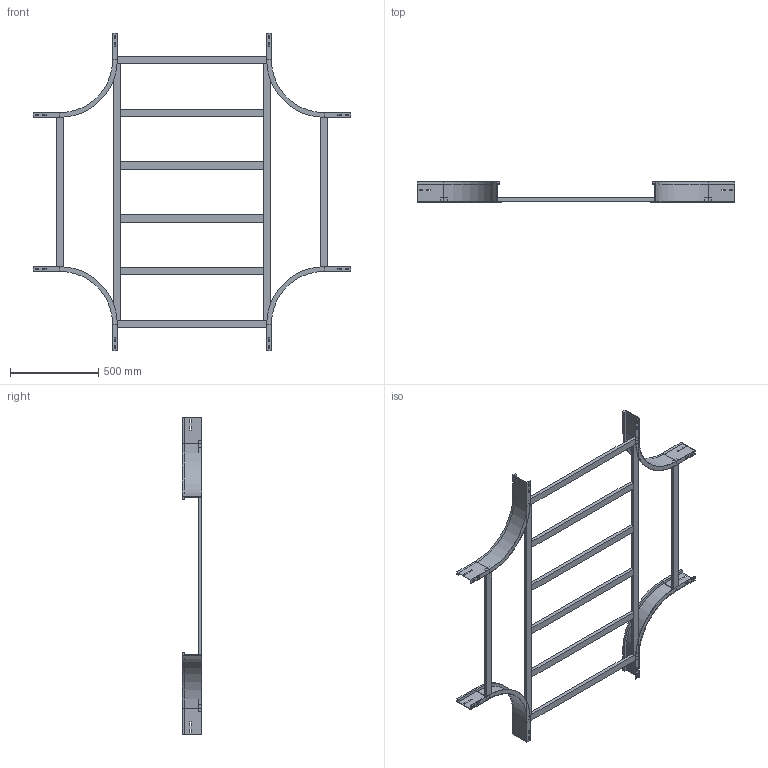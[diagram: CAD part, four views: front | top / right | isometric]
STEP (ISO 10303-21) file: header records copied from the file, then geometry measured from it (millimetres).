
FILE_DESCRIPTION (( 'STEP AP214' ), '1' );
FILE_NAME ('A2_17B3J900.step', '2025-02-21T15:57:02', ( '' ), ( '' ), 'SwSTEP 2.0', 'SolidWorks 2023', '' );
FILE_SCHEMA (( 'AUTOMOTIVE_DESIGN' ));
Length unit declared in the file: millimetre
Products named in the file (5): A2_LONGH.INTERNO 90°_H112.5_R300; TRAVERSINO_900; A2_TRAVERSINO_LONG._R300+900; TRAVERSINO_INTERMEDIO_R300+900; A2_17B3J900
Assembly tree (14 placements, depth 2):
  A2_17B3J900
    A2_LONGH.INTERNO 90°_H112.5_R300  x4
    TRAVERSINO_900  x4
    A2_TRAVERSINO_LONG._R300+900  x2
    TRAVERSINO_INTERMEDIO_R300+900  x4
Bounding box: 1800 x 112.5 x 1800 mm (x, y, z)
Volume: 9356881 mm3; surface area: 2164061.5 mm2
Topology: 14 solids, 14 shells, 292 faces, 728 edges, 464 vertices
Faces by surface type: plane 276, cylinder 16
Entity records: 2458 total; most frequent: CARTESIAN_POINT 401, DIRECTION 382, ORIENTED_EDGE 376, EDGE_CURVE 188, VECTOR 180, LINE 180, VERTEX_POINT 120, AXIS2_PLACEMENT_3D 101
